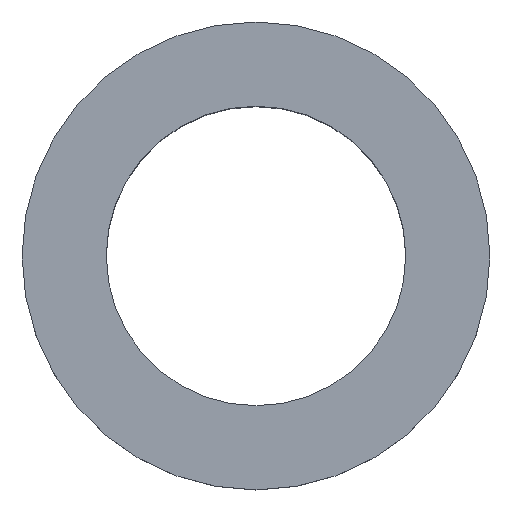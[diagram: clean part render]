
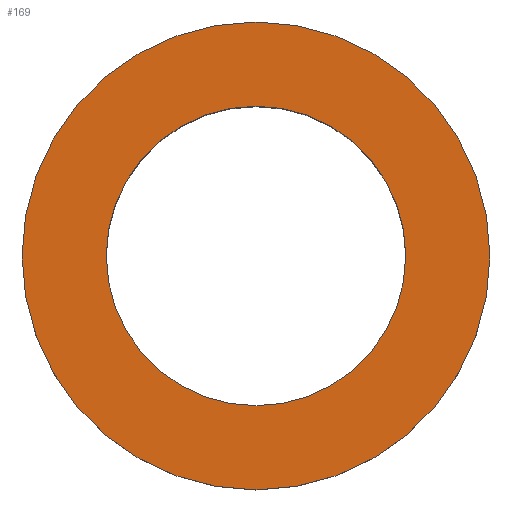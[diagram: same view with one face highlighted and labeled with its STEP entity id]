
A CAD part, top view. The second image highlights one B-rep face of the part: STEP entity #169.
In plain terms, the highlighted planar face has unit normal (0, 0, 1).
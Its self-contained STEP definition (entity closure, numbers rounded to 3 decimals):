
#169=ADVANCED_FACE('',(#193,#194),#190,.T.);
#190=PLANE('',#402);
#193=FACE_BOUND('',#199,.T.);
#194=FACE_BOUND('',#200,.T.);
#199=EDGE_LOOP('',(#223,#224));
#200=EDGE_LOOP('',(#225,#226));
#223=ORIENTED_EDGE('',*,*,#331,.T.);
#224=ORIENTED_EDGE('',*,*,#332,.T.);
#225=ORIENTED_EDGE('',*,*,#333,.F.);
#226=ORIENTED_EDGE('',*,*,#334,.F.);
#307=VERTEX_POINT('',#555);
#308=VERTEX_POINT('',#556);
#309=VERTEX_POINT('',#559);
#310=VERTEX_POINT('',#560);
#331=EDGE_CURVE('',#307,#308,#373,.T.);
#332=EDGE_CURVE('',#308,#307,#374,.T.);
#333=EDGE_CURVE('',#309,#310,#375,.T.);
#334=EDGE_CURVE('',#310,#309,#376,.T.);
#373=CIRCLE('',#398,12.5);
#374=CIRCLE('',#399,12.5);
#375=CIRCLE('',#400,8.);
#376=CIRCLE('',#401,8.);
#398=AXIS2_PLACEMENT_3D('',#554,#445,#446);
#399=AXIS2_PLACEMENT_3D('',#557,#447,#448);
#400=AXIS2_PLACEMENT_3D('',#558,#449,#450);
#401=AXIS2_PLACEMENT_3D('',#561,#451,#452);
#402=AXIS2_PLACEMENT_3D('',#562,#453,#454);
#445=DIRECTION('',(0.,0.,1.));
#446=DIRECTION('',(0.,1.,0.));
#447=DIRECTION('',(0.,0.,1.));
#448=DIRECTION('',(0.,-1.,0.));
#449=DIRECTION('',(0.,0.,1.));
#450=DIRECTION('',(0.,-1.,0.));
#451=DIRECTION('',(0.,0.,1.));
#452=DIRECTION('',(0.,1.,0.));
#453=DIRECTION('',(0.,0.,1.));
#454=DIRECTION('',(0.,1.,0.));
#554=CARTESIAN_POINT('',(0.,0.,3.));
#555=CARTESIAN_POINT('',(-12.5,0.,3.));
#556=CARTESIAN_POINT('',(12.5,0.,3.));
#557=CARTESIAN_POINT('',(0.,0.,3.));
#558=CARTESIAN_POINT('',(0.,0.,3.));
#559=CARTESIAN_POINT('',(8.,0.,3.));
#560=CARTESIAN_POINT('',(-8.,0.,3.));
#561=CARTESIAN_POINT('',(0.,0.,3.));
#562=CARTESIAN_POINT('',(0.,0.,3.));
